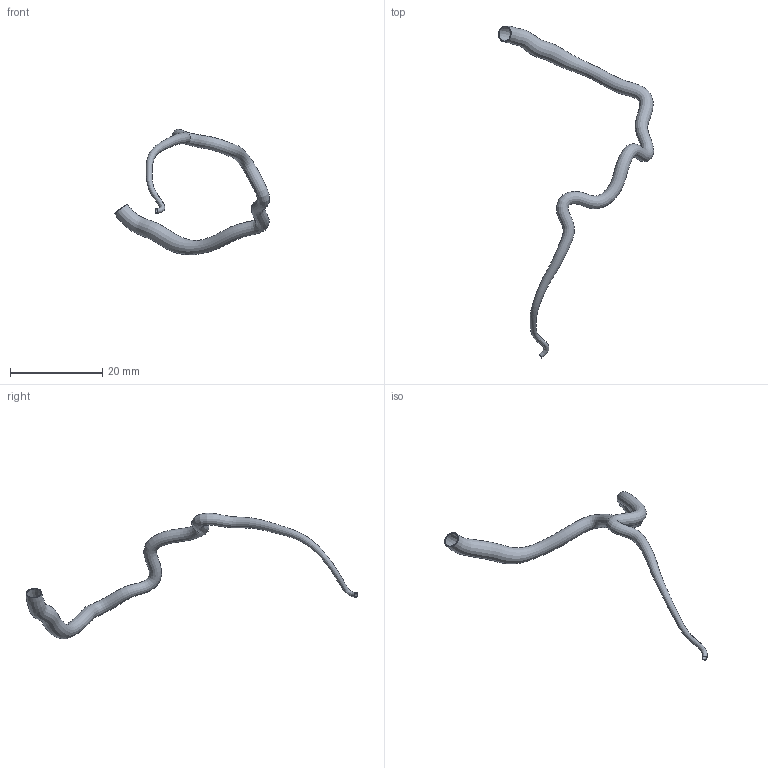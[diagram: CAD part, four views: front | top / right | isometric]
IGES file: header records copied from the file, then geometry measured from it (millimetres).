
Global section: file name: C:\Documents and Settings\Administrator\Desktop\FDA-Pig\Domestic RCA\Pig_000010\rca.seg.es.igs; native system: Rhinoceros ( May 19 2006 ); preprocessor: Trout Lake IGES 012 May 19 2006; date: 111205.185528; units: centimetre
Bounding box: 33.7 x 72.16 x 27.29 mm (x, y, z)
Surface area: 1954.6 mm2 (no closed solid volume)
Topology: 0 solids, 0 shells, 4 faces, 505 edges, 502 vertices
Faces by surface type: bspline 4
